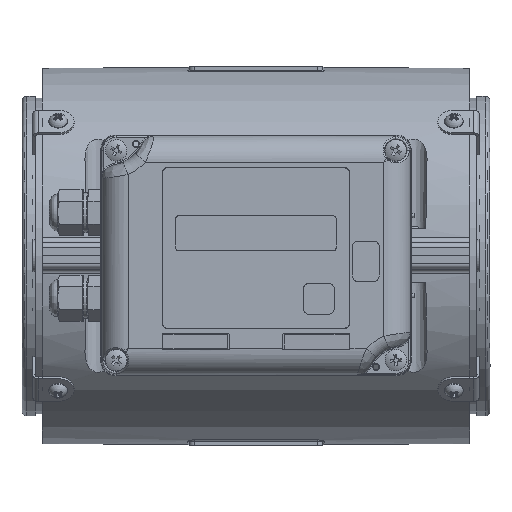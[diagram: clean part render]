
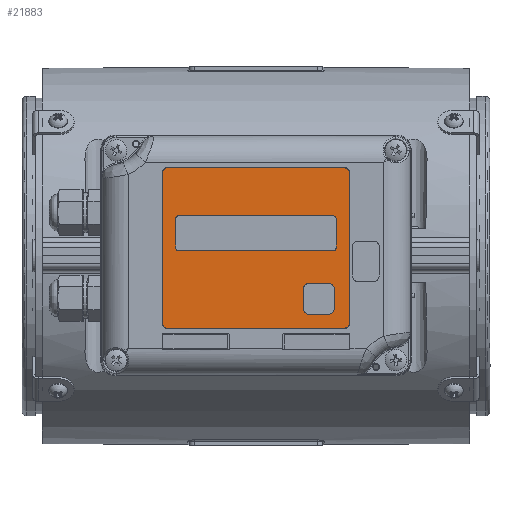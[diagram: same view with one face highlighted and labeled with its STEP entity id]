
A CAD part, top view. The second image highlights one B-rep face of the part: STEP entity #21883.
In plain terms, the highlighted planar face has unit normal (0, 0, 1).
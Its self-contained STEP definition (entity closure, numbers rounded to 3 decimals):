
#21883=ADVANCED_FACE('',(#51017,#51019,#51021),#51023,.T.);
#51017=FACE_BOUND('',#51018,.T.);
#51018=EDGE_LOOP('',(#61531,#61532,#61533,#61534,#61535,#61536,#61537,#61538));
#51019=FACE_BOUND('',#51020,.T.);
#51020=EDGE_LOOP('',(#61539,#61540,#61541,#61542,#61543,#61544,#61545,#61546));
#51021=FACE_BOUND('',#51022,.T.);
#51022=EDGE_LOOP('',(#61547,#61548,#61549,#61550,#61551,#61552,#61553,#61554));
#51023=PLANE('',#51024);
#51024=AXIS2_PLACEMENT_3D('',#51025,#51026,#51027);
#51025=CARTESIAN_POINT('',(-0.041,2.709,112.3));
#51026=DIRECTION('',(0.,0.,1.));
#51027=DIRECTION('',(-1.,0.,0.));
#61531=ORIENTED_EDGE('',*,*,#66866,.F.);
#61532=ORIENTED_EDGE('',*,*,#66867,.T.);
#61533=ORIENTED_EDGE('',*,*,#66868,.F.);
#61534=ORIENTED_EDGE('',*,*,#66869,.T.);
#61535=ORIENTED_EDGE('',*,*,#66870,.F.);
#61536=ORIENTED_EDGE('',*,*,#66871,.T.);
#61537=ORIENTED_EDGE('',*,*,#66872,.F.);
#61538=ORIENTED_EDGE('',*,*,#66873,.T.);
#61539=ORIENTED_EDGE('',*,*,#66874,.F.);
#61540=ORIENTED_EDGE('',*,*,#66875,.T.);
#61541=ORIENTED_EDGE('',*,*,#66876,.F.);
#61542=ORIENTED_EDGE('',*,*,#66877,.T.);
#61543=ORIENTED_EDGE('',*,*,#66878,.F.);
#61544=ORIENTED_EDGE('',*,*,#66879,.T.);
#61545=ORIENTED_EDGE('',*,*,#66880,.F.);
#61546=ORIENTED_EDGE('',*,*,#66881,.T.);
#61547=ORIENTED_EDGE('',*,*,#66882,.F.);
#61548=ORIENTED_EDGE('',*,*,#66883,.T.);
#61549=ORIENTED_EDGE('',*,*,#66884,.F.);
#61550=ORIENTED_EDGE('',*,*,#66885,.T.);
#61551=ORIENTED_EDGE('',*,*,#66886,.F.);
#61552=ORIENTED_EDGE('',*,*,#66887,.T.);
#61553=ORIENTED_EDGE('',*,*,#66888,.F.);
#61554=ORIENTED_EDGE('',*,*,#66889,.T.);
#66866=EDGE_CURVE('',#75418,#75419,#75420,.F.);
#66867=EDGE_CURVE('',#75418,#75421,#75422,.T.);
#66868=EDGE_CURVE('',#75423,#75421,#75424,.F.);
#66869=EDGE_CURVE('',#75423,#75425,#75426,.T.);
#66870=EDGE_CURVE('',#75427,#75425,#75428,.F.);
#66871=EDGE_CURVE('',#75427,#75429,#75430,.T.);
#66872=EDGE_CURVE('',#75431,#75429,#75432,.F.);
#66873=EDGE_CURVE('',#75431,#75419,#75433,.T.);
#66874=EDGE_CURVE('',#75434,#75435,#75436,.F.);
#66875=EDGE_CURVE('',#75434,#75437,#75438,.F.);
#66876=EDGE_CURVE('',#75439,#75437,#75440,.F.);
#66877=EDGE_CURVE('',#75439,#75441,#75442,.F.);
#66878=EDGE_CURVE('',#75443,#75441,#75444,.F.);
#66879=EDGE_CURVE('',#75443,#75445,#75446,.F.);
#66880=EDGE_CURVE('',#75447,#75445,#75448,.F.);
#66881=EDGE_CURVE('',#75447,#75435,#75449,.F.);
#66882=EDGE_CURVE('',#75450,#75451,#75452,.F.);
#66883=EDGE_CURVE('',#75450,#75453,#75454,.F.);
#66884=EDGE_CURVE('',#75455,#75453,#75456,.F.);
#66885=EDGE_CURVE('',#75455,#75457,#75458,.F.);
#66886=EDGE_CURVE('',#75459,#75457,#75460,.F.);
#66887=EDGE_CURVE('',#75459,#75461,#75462,.F.);
#66888=EDGE_CURVE('',#75463,#75461,#75464,.F.);
#66889=EDGE_CURVE('',#75463,#75451,#75465,.F.);
#75418=VERTEX_POINT('',#149016);
#75419=VERTEX_POINT('',#149017);
#75420=CIRCLE('',#149018,2.);
#75421=VERTEX_POINT('',#149022);
#75422=LINE('',#149023,#149024);
#75423=VERTEX_POINT('',#149026);
#75424=CIRCLE('',#149027,2.);
#75425=VERTEX_POINT('',#149031);
#75426=LINE('',#149032,#149033);
#75427=VERTEX_POINT('',#149035);
#75428=CIRCLE('',#149036,2.);
#75429=VERTEX_POINT('',#149040);
#75430=LINE('',#149041,#149042);
#75431=VERTEX_POINT('',#149044);
#75432=CIRCLE('',#149045,2.);
#75433=LINE('',#149049,#149050);
#75434=VERTEX_POINT('',#149052);
#75435=VERTEX_POINT('',#149053);
#75436=CIRCLE('',#149054,2.);
#75437=VERTEX_POINT('',#149058);
#75438=LINE('',#149059,#149060);
#75439=VERTEX_POINT('',#149062);
#75440=CIRCLE('',#149063,2.);
#75441=VERTEX_POINT('',#149067);
#75442=LINE('',#149068,#149069);
#75443=VERTEX_POINT('',#149071);
#75444=CIRCLE('',#149072,2.);
#75445=VERTEX_POINT('',#149076);
#75446=LINE('',#149077,#149078);
#75447=VERTEX_POINT('',#149080);
#75448=CIRCLE('',#149081,2.);
#75449=LINE('',#149085,#149086);
#75450=VERTEX_POINT('',#149088);
#75451=VERTEX_POINT('',#149089);
#75452=CIRCLE('',#149090,1.);
#75453=VERTEX_POINT('',#149094);
#75454=LINE('',#149095,#149096);
#75455=VERTEX_POINT('',#149098);
#75456=CIRCLE('',#149099,1.);
#75457=VERTEX_POINT('',#149103);
#75458=LINE('',#149104,#149105);
#75459=VERTEX_POINT('',#149107);
#75460=CIRCLE('',#149108,1.);
#75461=VERTEX_POINT('',#149112);
#75462=LINE('',#149113,#149114);
#75463=VERTEX_POINT('',#149116);
#75464=CIRCLE('',#149117,1.);
#75465=LINE('',#149121,#149122);
#149016=CARTESIAN_POINT('',(-33.041,-27.291,112.3));
#149017=CARTESIAN_POINT('',(-35.041,-25.291,112.3));
#149018=AXIS2_PLACEMENT_3D('',#149019,#149020,#149021);
#149019=CARTESIAN_POINT('',(-33.041,-25.291,112.3));
#149020=DIRECTION('',(0.,0.,1.));
#149021=DIRECTION('',(-1.,0.,0.));
#149022=CARTESIAN_POINT('',(32.959,-27.291,112.3));
#149023=CARTESIAN_POINT('',(-33.041,-27.291,112.3));
#149024=VECTOR('',#149025,1.);
#149025=DIRECTION('',(1.,0.,0.));
#149026=CARTESIAN_POINT('',(34.959,-25.291,112.3));
#149027=AXIS2_PLACEMENT_3D('',#149028,#149029,#149030);
#149028=CARTESIAN_POINT('',(32.959,-25.291,112.3));
#149029=DIRECTION('',(0.,0.,1.));
#149030=DIRECTION('',(0.,-1.,0.));
#149031=CARTESIAN_POINT('',(34.959,30.709,112.3));
#149032=CARTESIAN_POINT('',(34.959,-25.291,112.3));
#149033=VECTOR('',#149034,1.);
#149034=DIRECTION('',(0.,1.,0.));
#149035=CARTESIAN_POINT('',(32.959,32.709,112.3));
#149036=AXIS2_PLACEMENT_3D('',#149037,#149038,#149039);
#149037=CARTESIAN_POINT('',(32.959,30.709,112.3));
#149038=DIRECTION('',(0.,0.,1.));
#149039=DIRECTION('',(1.,0.,0.));
#149040=CARTESIAN_POINT('',(-33.041,32.709,112.3));
#149041=CARTESIAN_POINT('',(32.959,32.709,112.3));
#149042=VECTOR('',#149043,1.);
#149043=DIRECTION('',(-1.,0.,0.));
#149044=CARTESIAN_POINT('',(-35.041,30.709,112.3));
#149045=AXIS2_PLACEMENT_3D('',#149046,#149047,#149048);
#149046=CARTESIAN_POINT('',(-33.041,30.709,112.3));
#149047=DIRECTION('',(0.,0.,1.));
#149048=DIRECTION('',(0.,1.,0.));
#149049=CARTESIAN_POINT('',(-35.041,30.709,112.3));
#149050=VECTOR('',#149051,1.);
#149051=DIRECTION('',(0.,-1.,0.));
#149052=CARTESIAN_POINT('',(19.709,-10.541,112.3));
#149053=CARTESIAN_POINT('',(17.709,-12.541,112.3));
#149054=AXIS2_PLACEMENT_3D('',#149055,#149056,#149057);
#149055=CARTESIAN_POINT('',(19.709,-12.541,112.3));
#149056=DIRECTION('',(-0.,0.,-1.));
#149057=DIRECTION('',(-1.,0.,0.));
#149058=CARTESIAN_POINT('',(27.209,-10.541,112.3));
#149059=CARTESIAN_POINT('',(27.209,-10.541,112.3));
#149060=VECTOR('',#149061,1.);
#149061=DIRECTION('',(-1.,0.,0.));
#149062=CARTESIAN_POINT('',(29.209,-12.541,112.3));
#149063=AXIS2_PLACEMENT_3D('',#149064,#149065,#149066);
#149064=CARTESIAN_POINT('',(27.209,-12.541,112.3));
#149065=DIRECTION('',(0.,-0.,-1.));
#149066=DIRECTION('',(0.,1.,0.));
#149067=CARTESIAN_POINT('',(29.209,-20.041,112.3));
#149068=CARTESIAN_POINT('',(29.209,-20.041,112.3));
#149069=VECTOR('',#149070,1.);
#149070=DIRECTION('',(0.,1.,0.));
#149071=CARTESIAN_POINT('',(27.209,-22.041,112.3));
#149072=AXIS2_PLACEMENT_3D('',#149073,#149074,#149075);
#149073=CARTESIAN_POINT('',(27.209,-20.041,112.3));
#149074=DIRECTION('',(0.,-0.,-1.));
#149075=DIRECTION('',(1.,0.,0.));
#149076=CARTESIAN_POINT('',(19.709,-22.041,112.3));
#149077=CARTESIAN_POINT('',(19.709,-22.041,112.3));
#149078=VECTOR('',#149079,1.);
#149079=DIRECTION('',(1.,0.,0.));
#149080=CARTESIAN_POINT('',(17.709,-20.041,112.3));
#149081=AXIS2_PLACEMENT_3D('',#149082,#149083,#149084);
#149082=CARTESIAN_POINT('',(19.709,-20.041,112.3));
#149083=DIRECTION('',(-0.,0.,-1.));
#149084=DIRECTION('',(0.,-1.,0.));
#149085=CARTESIAN_POINT('',(17.709,-12.541,112.3));
#149086=VECTOR('',#149087,1.);
#149087=DIRECTION('',(0.,-1.,0.));
#149088=CARTESIAN_POINT('',(-29.041,14.709,112.3));
#149089=CARTESIAN_POINT('',(-30.041,13.709,112.3));
#149090=AXIS2_PLACEMENT_3D('',#149091,#149092,#149093);
#149091=CARTESIAN_POINT('',(-29.041,13.709,112.3));
#149092=DIRECTION('',(0.,-0.,-1.));
#149093=DIRECTION('',(-1.,0.,0.));
#149094=CARTESIAN_POINT('',(28.959,14.709,112.3));
#149095=CARTESIAN_POINT('',(28.959,14.709,112.3));
#149096=VECTOR('',#149097,1.);
#149097=DIRECTION('',(-1.,0.,0.));
#149098=CARTESIAN_POINT('',(29.959,13.709,112.3));
#149099=AXIS2_PLACEMENT_3D('',#149100,#149101,#149102);
#149100=CARTESIAN_POINT('',(28.959,13.709,112.3));
#149101=DIRECTION('',(0.,-0.,-1.));
#149102=DIRECTION('',(0.,1.,0.));
#149103=CARTESIAN_POINT('',(29.959,2.709,112.3));
#149104=CARTESIAN_POINT('',(29.959,2.709,112.3));
#149105=VECTOR('',#149106,1.);
#149106=DIRECTION('',(0.,1.,0.));
#149107=CARTESIAN_POINT('',(28.959,1.709,112.3));
#149108=AXIS2_PLACEMENT_3D('',#149109,#149110,#149111);
#149109=CARTESIAN_POINT('',(28.959,2.709,112.3));
#149110=DIRECTION('',(0.,-0.,-1.));
#149111=DIRECTION('',(1.,0.,0.));
#149112=CARTESIAN_POINT('',(-29.041,1.709,112.3));
#149113=CARTESIAN_POINT('',(-29.041,1.709,112.3));
#149114=VECTOR('',#149115,1.);
#149115=DIRECTION('',(1.,0.,0.));
#149116=CARTESIAN_POINT('',(-30.041,2.709,112.3));
#149117=AXIS2_PLACEMENT_3D('',#149118,#149119,#149120);
#149118=CARTESIAN_POINT('',(-29.041,2.709,112.3));
#149119=DIRECTION('',(-0.,0.,-1.));
#149120=DIRECTION('',(0.,-1.,0.));
#149121=CARTESIAN_POINT('',(-30.041,13.709,112.3));
#149122=VECTOR('',#149123,1.);
#149123=DIRECTION('',(0.,-1.,0.));
